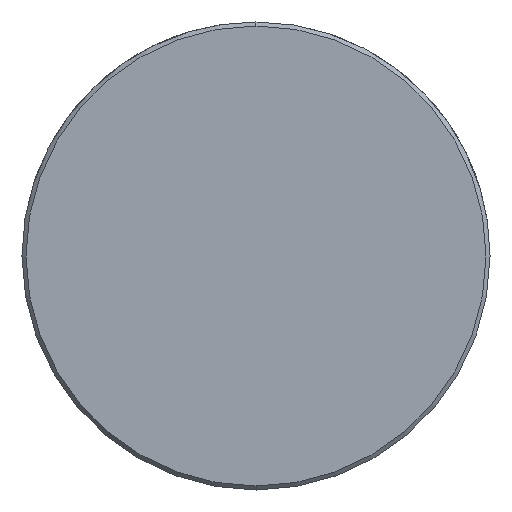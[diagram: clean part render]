
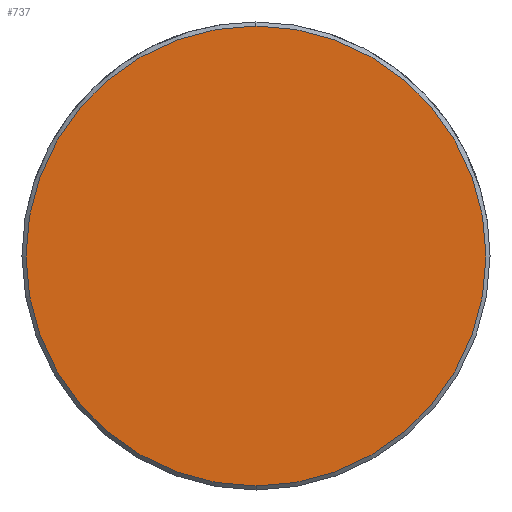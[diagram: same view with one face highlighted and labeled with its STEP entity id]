
A CAD part, left-side view. The second image highlights one B-rep face of the part: STEP entity #737.
In plain terms, the highlighted planar face has unit normal (-1, 0, 0).
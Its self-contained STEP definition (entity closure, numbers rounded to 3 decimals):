
#669=CARTESIAN_POINT('Vertex',(0.,0.,-17.2)) ;
#672=CARTESIAN_POINT('Axis2P3D Location',(0.,0.,0.)) ;
#676=CARTESIAN_POINT('Vertex',(0.,17.2,0.)) ;
#679=CARTESIAN_POINT('Axis2P3D Location',(0.,0.,0.)) ;
#683=CARTESIAN_POINT('Vertex',(0.,0.,17.2)) ;
#705=CARTESIAN_POINT('Axis2P3D Location',(0.,0.,0.)) ;
#709=CARTESIAN_POINT('Vertex',(0.,-17.2,0.)) ;
#712=CARTESIAN_POINT('Axis2P3D Location',(0.,0.,0.)) ;
#726=CARTESIAN_POINT('Axis2P3D Location',(0.,0.,0.)) ;
#673=DIRECTION('Axis2P3D Direction',(1.,0.,-0.)) ;
#680=DIRECTION('Axis2P3D Direction',(1.,0.,-0.)) ;
#706=DIRECTION('Axis2P3D Direction',(1.,0.,-0.)) ;
#713=DIRECTION('Axis2P3D Direction',(1.,0.,-0.)) ;
#727=DIRECTION('Axis2P3D Direction',(1.,0.,-0.)) ;
#728=DIRECTION('Axis2P3D XDirection',(-0.,0.,-1.)) ;
#674=AXIS2_PLACEMENT_3D('Circle Axis2P3D',#672,#673,$) ;
#681=AXIS2_PLACEMENT_3D('Circle Axis2P3D',#679,#680,$) ;
#707=AXIS2_PLACEMENT_3D('Circle Axis2P3D',#705,#706,$) ;
#714=AXIS2_PLACEMENT_3D('Circle Axis2P3D',#712,#713,$) ;
#729=AXIS2_PLACEMENT_3D('Plane Axis2P3D',#726,#727,#728) ;
#732=ORIENTED_EDGE('',*,*,#678,.F.) ;
#733=ORIENTED_EDGE('',*,*,#716,.F.) ;
#734=ORIENTED_EDGE('',*,*,#711,.F.) ;
#735=ORIENTED_EDGE('',*,*,#685,.F.) ;
#737=ADVANCED_FACE('549-30X100',(#736),#730,.F.) ;
#675=CIRCLE('generated circle',#674,17.2) ;
#682=CIRCLE('generated circle',#681,17.2) ;
#708=CIRCLE('generated circle',#707,17.2) ;
#715=CIRCLE('generated circle',#714,17.2) ;
#678=EDGE_CURVE('',#670,#677,#675,.T.) ;
#685=EDGE_CURVE('',#677,#684,#682,.T.) ;
#711=EDGE_CURVE('',#684,#710,#708,.T.) ;
#716=EDGE_CURVE('',#710,#670,#715,.T.) ;
#731=EDGE_LOOP('',(#732,#733,#734,#735)) ;
#736=FACE_OUTER_BOUND('',#731,.T.) ;
#730=PLANE('Plane',#729) ;
#670=VERTEX_POINT('',#669) ;
#677=VERTEX_POINT('',#676) ;
#684=VERTEX_POINT('',#683) ;
#710=VERTEX_POINT('',#709) ;
